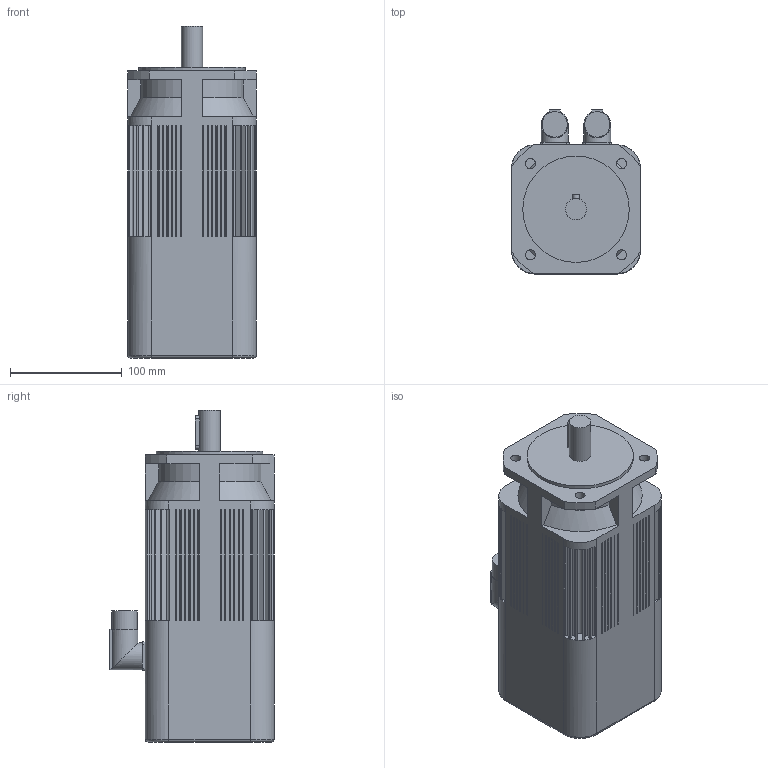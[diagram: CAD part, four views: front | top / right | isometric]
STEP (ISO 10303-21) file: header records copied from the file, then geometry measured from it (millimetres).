
FILE_DESCRIPTION(/* description */ (''),/* implementation_level */ '2;1');
FILE_NAME(/* name */ '\\Lafnas01\disegni\Archivi Lafert\3D\CAD 3D\MODELLI\Assiemi clienti\Serad\Modelli 3D Serad\B63I\Encoder\Enc Without Brake\B6304Ixx6ARx2033.ipt.stp',/* time_stamp */ '2015-09-07T10:50:35+02:00',/* author */ ('Pastrello Ylenia'),/* organization */ (''),/* preprocessor_version */ 'ST-DEVELOPER v15.6',/* originating_system */ 'Autodesk Inventor 2015',/* authorisation */ '');
FILE_SCHEMA (('AUTOMOTIVE_DESIGN { 1 0 10303 214 3 1 1 }'));
Length unit declared in the file: millimetre
Products named in the file (1): B6304Ixx6ARx2033
Bounding box: 115 x 146.5 x 296.5 mm (x, y, z)
Volume: 3171691.2 mm3; surface area: 178696.7 mm2
Topology: 1 solids, 1 shells, 445 faces, 1091 edges, 704 vertices
Faces by surface type: plane 351, cylinder 86, cone 4, torus 4
Full cylindrical faces by diameter (mm): 9 x4, 19 x1, 22.7 x2, 24 x2, 95 x1
Entity records: 13008 total; most frequent: CARTESIAN_POINT 2276, DIRECTION 2254, ORIENTED_EDGE 2156, EDGE_CURVE 1078, LINE 774, VECTOR 774, AXIS2_PLACEMENT_3D 740, VERTEX_POINT 702
